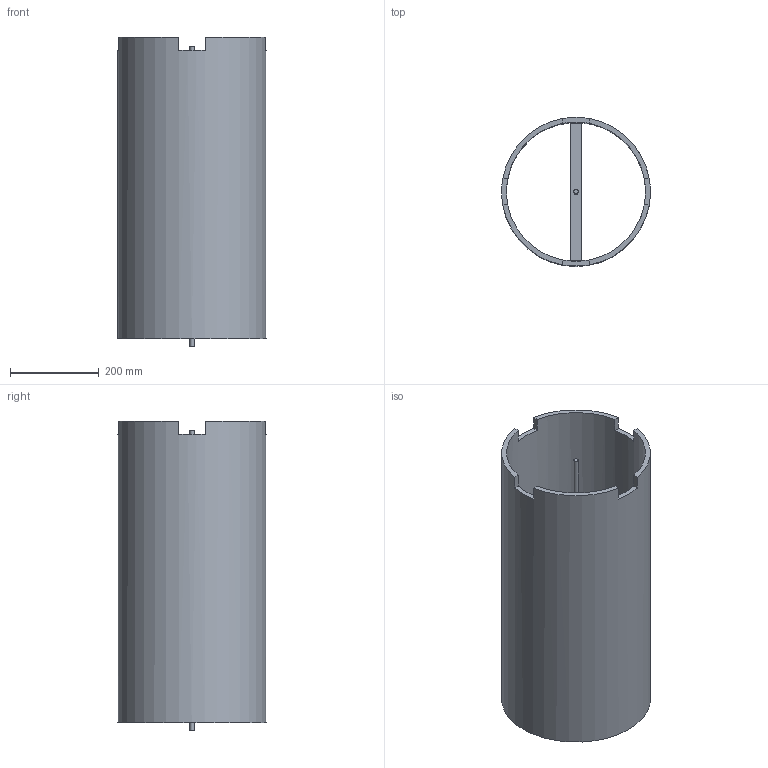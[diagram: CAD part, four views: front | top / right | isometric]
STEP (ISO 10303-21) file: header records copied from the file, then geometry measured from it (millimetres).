
FILE_DESCRIPTION( ( 'STEP AP214' ), '1' );
FILE_NAME( 'D:/Yug/2021/Delta/desk_and_office_organisation/QC/45824.stp', '2021-01-20T06:07:01', ( '' ), ( '' ), ' ', 'PARTsolutions', ' ' );
FILE_SCHEMA( ( 'AUTOMOTIVE_DESIGN { 1 0 10303 214 1 1 1 1 }' ) );
Length unit declared in the file: millimetre
Products named in the file (1): _45824
Bounding box: 335 x 335 x 697 mm (x, y, z)
Volume: 7589134.3 mm3; surface area: 1432707.3 mm2
Topology: 1 solids, 1 shells, 35 faces, 96 edges, 64 vertices
Faces by surface type: plane 31, cylinder 4
Full cylindrical faces by diameter (mm): 10 x2, 313 x1, 335 x1
Entity records: 1382 total; most frequent: CARTESIAN_POINT 188, DIRECTION 188, ORIENTED_EDGE 180, EDGE_CURVE 90, LINE 64, VECTOR 64, AXIS2_PLACEMENT_3D 62, VERTEX_POINT 62
